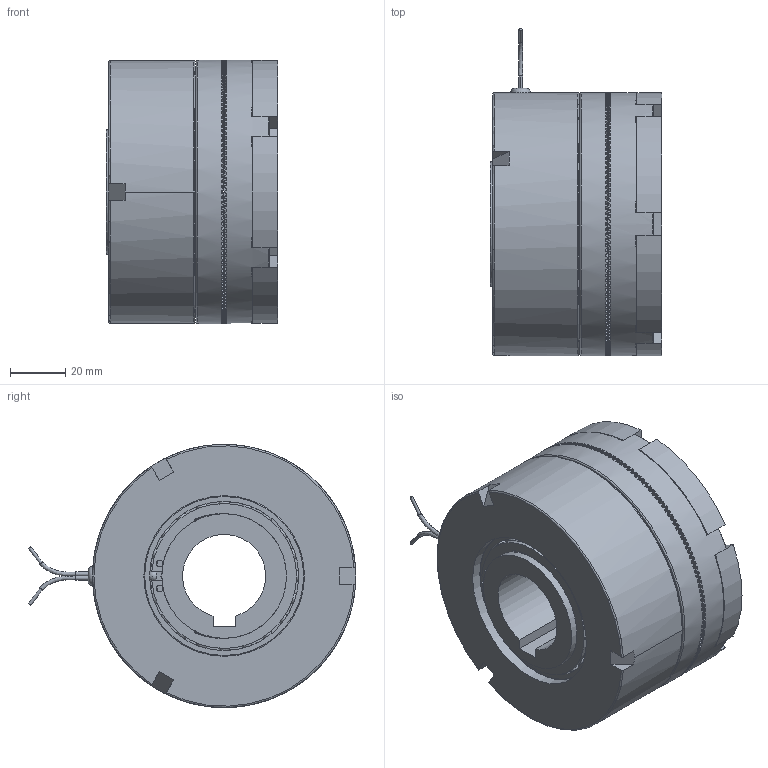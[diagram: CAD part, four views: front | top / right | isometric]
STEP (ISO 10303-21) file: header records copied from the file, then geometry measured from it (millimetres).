
FILE_DESCRIPTION(/* description */ (''),/* implementation_level */ '2;1');
FILE_NAME(/* name */ 'X:\INVENTOR\DISEGNI\07_Innesti_Elettmag_a_Dentini\07_05 ESB_Z\07_05_095_01 ESB095_Z\07_05_095_01 ESB095_Z - 2017-F30@STEP.stp',/* time_stamp */ '2018-05-02T16:18:20+02:00',/* author */ ('stefano'),/* organization */ (''),/* preprocessor_version */ 'ST-DEVELOPER v17',/* originating_system */ 'Autodesk Inventor 2018',/* authorisation */ '');
FILE_SCHEMA (('AUTOMOTIVE_DESIGN { 1 0 10303 214 3 1 1 }'));
Products named in the file (1): 07_05_095_01 ESB095_Z - 2017_Substitute_1
Bounding box: 62 x 118.22 x 95 mm (x, y, z)
Volume: 334012.8 mm3; surface area: 87363.5 mm2
Topology: 2 solids, 2 shells, 1691 faces, 5303 edges, 3505 vertices
Faces by surface type: plane 1468, cylinder 135, torus 50, sphere 20, cone 16, bspline 2
Full cylindrical faces by diameter (mm): 1.154 x2, 1.5 x1, 2.5 x4, 3.242 x3, 5 x38, 5.3 x3, 5.75 x3, 8 x3, 9.5 x3, 42.5 x1, 44.5 x1, 45 x5, 49.16 x2, 50 x1, 53.84 x2, 57.5 x1, 58 x3, 63.5 x1, 65.5 x1, 74 x1, 81.5 x1, 84 x2, 85 x1, 85.5 x1, 86 x2, 95 x2
Entity records: 63005 total; most frequent: CARTESIAN_POINT 13026, DIRECTION 11654, ORIENTED_EDGE 10522, EDGE_CURVE 5261, AXIS2_PLACEMENT_3D 4935, VERTEX_POINT 3505, ELLIPSE 1862, EDGE_LOOP 1809
